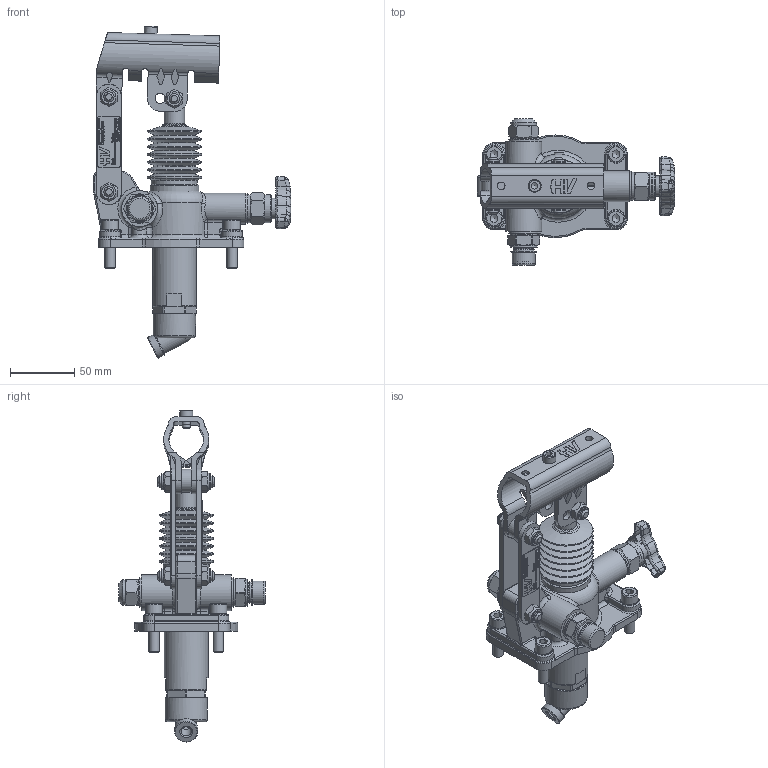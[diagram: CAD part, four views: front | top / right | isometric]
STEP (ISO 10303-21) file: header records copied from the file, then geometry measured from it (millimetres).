
FILE_DESCRIPTION((''),'2;1');
FILE_NAME('G:\HV_HYDRAULIC\AZIENDA_HV_HYDRAULIC\ARCHIVIO_DISEGNI\5_PRODOTTI_FINITI\1_POMPE_MANUALI\6049_PM_6\6049.0117_PM_6_byB-s_(HV)\MODELLI_BLOCCATI\6049.0117_D.stp','2024-02-27T15:10:07',('christian.scardovi'),(''),'Autodesk Inventor 2013','Autodesk Inventor 2013','');
FILE_SCHEMA(('AUTOMOTIVE_DESIGN { 1 0 10303 214 1 1 1 1 }'));
Length unit declared in the file: millimetre
Products named in the file (1): 6049.0117_D
Bounding box: 153.5 x 114 x 258.54 mm (x, y, z)
Volume: 2772.8 mm3; surface area: 138537.3 mm2
Topology: 30 solids, 31 shells, 1856 faces, 4582 edges, 2860 vertices
Faces by surface type: plane 805, cylinder 385, bspline 269, cone 192, torus 188, sphere 17
Full cylindrical faces by diameter (mm): 5 x5, 6 x6, 6.5 x2, 8 x26, 8.5 x4, 9 x3, 9.2 x1, 10 x7, 11.05 x6, 12 x5, 13 x4, 13.2 x1, 14 x4, 14.95 x4, 15 x2, 16 x7, 16.6 x3, 17 x3, 18 x7, 18.1 x1, 20 x3, 20.6 x2, 21 x2, 21.8 x2, 22 x1, 22.4 x2, 23 x5, 24 x1, 24.5 x1, 26.5 x1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
Entity records: 62568 total; most frequent: CARTESIAN_POINT 20212, ORIENTED_EDGE 8242, DIRECTION 7831, EDGE_CURVE 4121, AXIS2_PLACEMENT_3D 2913, VERTEX_POINT 2752, EDGE_LOOP 2361, VECTOR 2005
